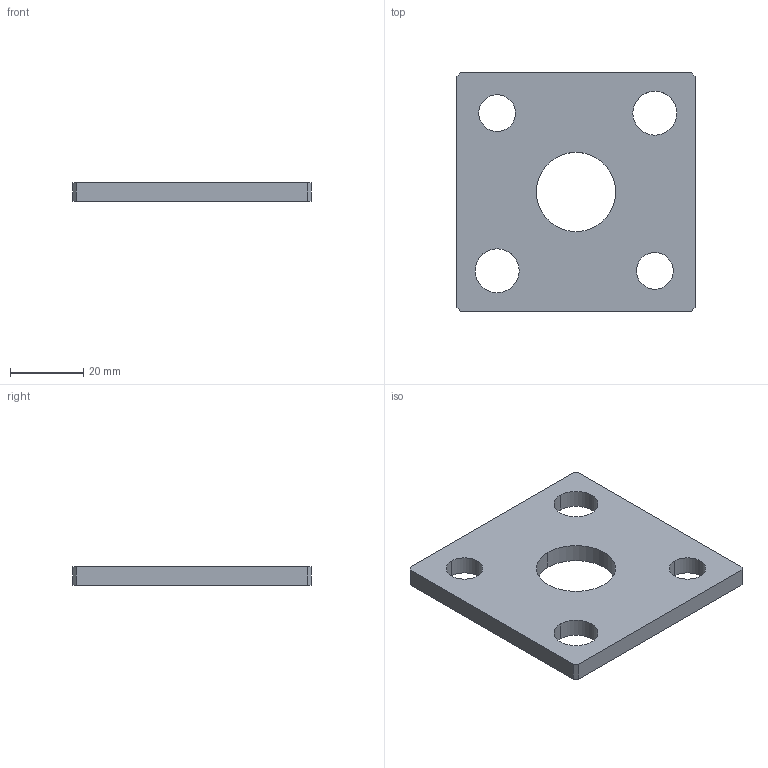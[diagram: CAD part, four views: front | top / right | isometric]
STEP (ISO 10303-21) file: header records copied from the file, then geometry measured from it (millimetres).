
FILE_DESCRIPTION(/* description */ (''),/* implementation_level */ '2;1');
FILE_NAME(/* name */ '3d_mdsp32_04302_r00.stp',/* time_stamp */ '2011-01-10T14:13:53+09:00',/* author */ ('MISUMI'),/* organization */ (''),/* preprocessor_version */ 'ST-DEVELOPER v11',/* originating_system */ 'UGS - NX 5.0',/* authorisation */ '');
FILE_SCHEMA (('CONFIG_CONTROL_DESIGN'));
Length unit declared in the file: millimetre
Products named in the file (1): 3d_mdsp32_04302_r00
Bounding box: 65 x 65 x 5 mm (x, y, z)
Volume: 17366.5 mm3; surface area: 9265.3 mm2
Topology: 1 solids, 1 shells, 20 faces, 54 edges, 36 vertices
Faces by surface type: plane 10, cylinder 10
Entity records: 744 total; most frequent: DIRECTION 116, CARTESIAN_POINT 111, ORIENTED_EDGE 108, EDGE_CURVE 54, AXIS2_PLACEMENT_3D 41, VERTEX_POINT 36, LINE 34, VECTOR 34
